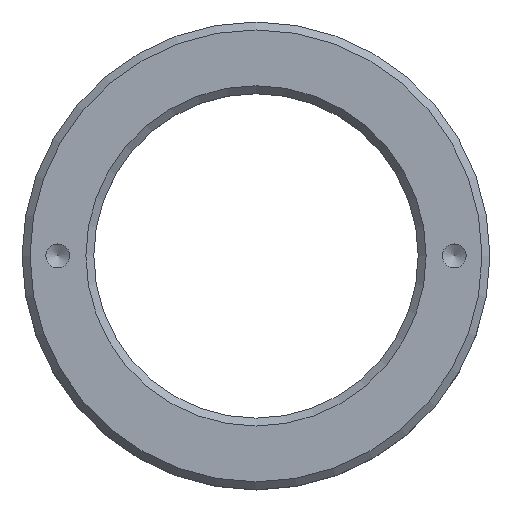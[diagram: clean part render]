
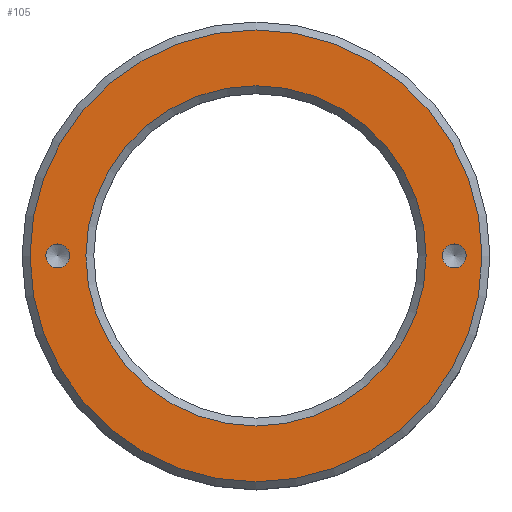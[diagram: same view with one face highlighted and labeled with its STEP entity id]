
A CAD part, top view. The second image highlights one B-rep face of the part: STEP entity #105.
In plain terms, the highlighted planar face has unit normal (0, 0, 1).
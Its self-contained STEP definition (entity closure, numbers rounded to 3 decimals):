
#105 = ADVANCED_FACE( '', ( #224, #225, #226, #227 ), #228, .F. );
#224 = FACE_BOUND( '', #7305, .T. );
#225 = FACE_BOUND( '', #7306, .T. );
#226 = FACE_BOUND( '', #7307, .T. );
#227 = FACE_OUTER_BOUND( '', #7308, .T. );
#228 = PLANE( '', #7309 );
#7305 = EDGE_LOOP( '', ( #7483 ) );
#7306 = EDGE_LOOP( '', ( #7484 ) );
#7307 = EDGE_LOOP( '', ( #7485 ) );
#7308 = EDGE_LOOP( '', ( #7486 ) );
#7309 = AXIS2_PLACEMENT_3D( '', #7487, #7488, #7489 );
#7483 = ORIENTED_EDGE( '', *, *, #7529, .T. );
#7484 = ORIENTED_EDGE( '', *, *, #7567, .T. );
#7485 = ORIENTED_EDGE( '', *, *, #7555, .T. );
#7486 = ORIENTED_EDGE( '', *, *, #7576, .T. );
#7487 = CARTESIAN_POINT( '', ( 0., 0., 18.25 ) );
#7488 = DIRECTION( '', ( 0., 0., -1. ) );
#7489 = DIRECTION( '', ( -1., 0., 0. ) );
#7529 = EDGE_CURVE( '', #7619, #7619, #7620, .T. );
#7555 = EDGE_CURVE( '', #7657, #7657, #7658, .T. );
#7567 = EDGE_CURVE( '', #7672, #7672, #7673, .T. );
#7576 = EDGE_CURVE( '', #7682, #7682, #7683, .F. );
#7619 = VERTEX_POINT( '', #8015 );
#7620 = CIRCLE( '', #8016, 1.5 );
#7657 = VERTEX_POINT( '', #8218 );
#7658 = CIRCLE( '', #8219, 21.459 );
#7672 = VERTEX_POINT( '', #8275 );
#7673 = CIRCLE( '', #8276, 1.5 );
#7682 = VERTEX_POINT( '', #8327 );
#7683 = CIRCLE( '', #8328, 28.5 );
#8015 = CARTESIAN_POINT( '', ( -25., -1.5, 18.25 ) );
#8016 = AXIS2_PLACEMENT_3D( '', #8349, #8350, #8351 );
#8218 = CARTESIAN_POINT( '', ( -21.459, 0., 18.25 ) );
#8219 = AXIS2_PLACEMENT_3D( '', #8382, #8383, #8384 );
#8275 = CARTESIAN_POINT( '', ( 25., -1.5, 18.25 ) );
#8276 = AXIS2_PLACEMENT_3D( '', #8394, #8395, #8396 );
#8327 = CARTESIAN_POINT( '', ( -28.5, 0., 18.25 ) );
#8328 = AXIS2_PLACEMENT_3D( '', #8397, #8398, #8399 );
#8349 = CARTESIAN_POINT( '', ( -25., 0., 18.25 ) );
#8350 = DIRECTION( '', ( 0., 0., -1. ) );
#8351 = DIRECTION( '', ( 0., -1., 0. ) );
#8382 = CARTESIAN_POINT( '', ( 0., 0., 18.25 ) );
#8383 = DIRECTION( '', ( 0., 0., -1. ) );
#8384 = DIRECTION( '', ( -1., 0., 0. ) );
#8394 = CARTESIAN_POINT( '', ( 25., 0., 18.25 ) );
#8395 = DIRECTION( '', ( 0., 0., -1. ) );
#8396 = DIRECTION( '', ( 0., -1., 0. ) );
#8397 = CARTESIAN_POINT( '', ( 0., 0., 18.25 ) );
#8398 = DIRECTION( '', ( 0., 0., -1. ) );
#8399 = DIRECTION( '', ( -1., 0., 0. ) );
